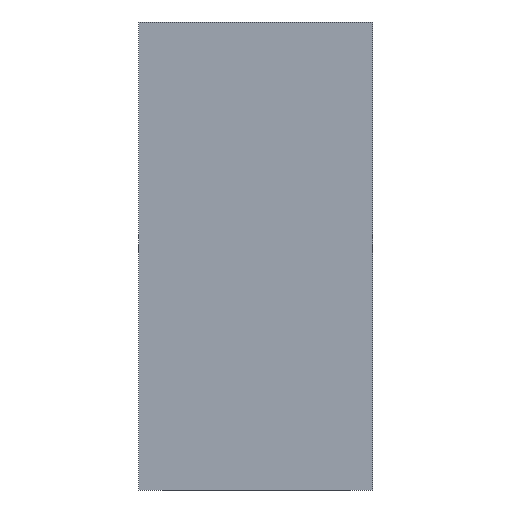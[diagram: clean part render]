
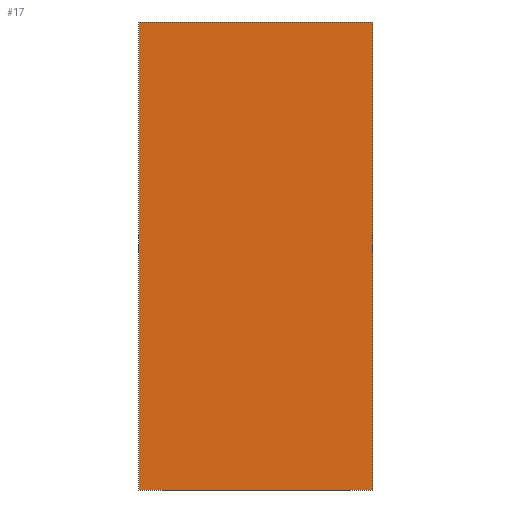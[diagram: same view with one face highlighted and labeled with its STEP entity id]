
A CAD part, front view. The second image highlights one B-rep face of the part: STEP entity #17.
In plain terms, the highlighted planar face has unit normal (0, -1, 0).
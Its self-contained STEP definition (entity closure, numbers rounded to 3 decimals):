
#17 = ADVANCED_FACE('',(#18),#32,.F.);
#18 = FACE_BOUND('',#19,.F.);
#19 = EDGE_LOOP('',(#20,#55,#83,#111));
#20 = ORIENTED_EDGE('',*,*,#21,.T.);
#21 = EDGE_CURVE('',#22,#24,#26,.T.);
#22 = VERTEX_POINT('',#23);
#23 = CARTESIAN_POINT('',(-50.,-50.,0.));
#24 = VERTEX_POINT('',#25);
#25 = CARTESIAN_POINT('',(-50.,-50.,200.));
#26 = SURFACE_CURVE('',#27,(#31,#43),.PCURVE_S1.);
#27 = LINE('',#28,#29);
#28 = CARTESIAN_POINT('',(-50.,-50.,0.));
#29 = VECTOR('',#30,1.);
#30 = DIRECTION('',(0.,0.,1.));
#31 = PCURVE('',#32,#37);
#32 = PLANE('',#33);
#33 = AXIS2_PLACEMENT_3D('',#34,#35,#36);
#34 = CARTESIAN_POINT('',(-50.,-50.,0.));
#35 = DIRECTION('',(0.,1.,0.));
#36 = DIRECTION('',(1.,0.,0.));
#37 = DEFINITIONAL_REPRESENTATION('',(#38),#42);
#38 = LINE('',#39,#40);
#39 = CARTESIAN_POINT('',(0.,0.));
#40 = VECTOR('',#41,1.);
#41 = DIRECTION('',(0.,-1.));
#42 = ( GEOMETRIC_REPRESENTATION_CONTEXT(2) 
PARAMETRIC_REPRESENTATION_CONTEXT() REPRESENTATION_CONTEXT('2D SPACE',''
  ) );
#43 = PCURVE('',#44,#49);
#44 = PLANE('',#45);
#45 = AXIS2_PLACEMENT_3D('',#46,#47,#48);
#46 = CARTESIAN_POINT('',(-50.,50.,0.));
#47 = DIRECTION('',(1.,0.,-0.));
#48 = DIRECTION('',(0.,-1.,0.));
#49 = DEFINITIONAL_REPRESENTATION('',(#50),#54);
#50 = LINE('',#51,#52);
#51 = CARTESIAN_POINT('',(100.,0.));
#52 = VECTOR('',#53,1.);
#53 = DIRECTION('',(0.,-1.));
#54 = ( GEOMETRIC_REPRESENTATION_CONTEXT(2) 
PARAMETRIC_REPRESENTATION_CONTEXT() REPRESENTATION_CONTEXT('2D SPACE',''
  ) );
#55 = ORIENTED_EDGE('',*,*,#56,.T.);
#56 = EDGE_CURVE('',#24,#57,#59,.T.);
#57 = VERTEX_POINT('',#58);
#58 = CARTESIAN_POINT('',(50.,-50.,200.));
#59 = SURFACE_CURVE('',#60,(#64,#71),.PCURVE_S1.);
#60 = LINE('',#61,#62);
#61 = CARTESIAN_POINT('',(-50.,-50.,200.));
#62 = VECTOR('',#63,1.);
#63 = DIRECTION('',(1.,0.,0.));
#64 = PCURVE('',#32,#65);
#65 = DEFINITIONAL_REPRESENTATION('',(#66),#70);
#66 = LINE('',#67,#68);
#67 = CARTESIAN_POINT('',(0.,-200.));
#68 = VECTOR('',#69,1.);
#69 = DIRECTION('',(1.,0.));
#70 = ( GEOMETRIC_REPRESENTATION_CONTEXT(2) 
PARAMETRIC_REPRESENTATION_CONTEXT() REPRESENTATION_CONTEXT('2D SPACE',''
  ) );
#71 = PCURVE('',#72,#77);
#72 = PLANE('',#73);
#73 = AXIS2_PLACEMENT_3D('',#74,#75,#76);
#74 = CARTESIAN_POINT('',(0.,0.,200.));
#75 = DIRECTION('',(0.,0.,1.));
#76 = DIRECTION('',(1.,0.,-0.));
#77 = DEFINITIONAL_REPRESENTATION('',(#78),#82);
#78 = LINE('',#79,#80);
#79 = CARTESIAN_POINT('',(-50.,-50.));
#80 = VECTOR('',#81,1.);
#81 = DIRECTION('',(1.,0.));
#82 = ( GEOMETRIC_REPRESENTATION_CONTEXT(2) 
PARAMETRIC_REPRESENTATION_CONTEXT() REPRESENTATION_CONTEXT('2D SPACE',''
  ) );
#83 = ORIENTED_EDGE('',*,*,#84,.F.);
#84 = EDGE_CURVE('',#85,#57,#87,.T.);
#85 = VERTEX_POINT('',#86);
#86 = CARTESIAN_POINT('',(50.,-50.,0.));
#87 = SURFACE_CURVE('',#88,(#92,#99),.PCURVE_S1.);
#88 = LINE('',#89,#90);
#89 = CARTESIAN_POINT('',(50.,-50.,0.));
#90 = VECTOR('',#91,1.);
#91 = DIRECTION('',(0.,0.,1.));
#92 = PCURVE('',#32,#93);
#93 = DEFINITIONAL_REPRESENTATION('',(#94),#98);
#94 = LINE('',#95,#96);
#95 = CARTESIAN_POINT('',(100.,0.));
#96 = VECTOR('',#97,1.);
#97 = DIRECTION('',(0.,-1.));
#98 = ( GEOMETRIC_REPRESENTATION_CONTEXT(2) 
PARAMETRIC_REPRESENTATION_CONTEXT() REPRESENTATION_CONTEXT('2D SPACE',''
  ) );
#99 = PCURVE('',#100,#105);
#100 = PLANE('',#101);
#101 = AXIS2_PLACEMENT_3D('',#102,#103,#104);
#102 = CARTESIAN_POINT('',(50.,-50.,0.));
#103 = DIRECTION('',(-1.,0.,0.));
#104 = DIRECTION('',(0.,1.,0.));
#105 = DEFINITIONAL_REPRESENTATION('',(#106),#110);
#106 = LINE('',#107,#108);
#107 = CARTESIAN_POINT('',(0.,0.));
#108 = VECTOR('',#109,1.);
#109 = DIRECTION('',(0.,-1.));
#110 = ( GEOMETRIC_REPRESENTATION_CONTEXT(2) 
PARAMETRIC_REPRESENTATION_CONTEXT() REPRESENTATION_CONTEXT('2D SPACE',''
  ) );
#111 = ORIENTED_EDGE('',*,*,#112,.F.);
#112 = EDGE_CURVE('',#22,#85,#113,.T.);
#113 = SURFACE_CURVE('',#114,(#118,#125),.PCURVE_S1.);
#114 = LINE('',#115,#116);
#115 = CARTESIAN_POINT('',(-50.,-50.,0.));
#116 = VECTOR('',#117,1.);
#117 = DIRECTION('',(1.,0.,0.));
#118 = PCURVE('',#32,#119);
#119 = DEFINITIONAL_REPRESENTATION('',(#120),#124);
#120 = LINE('',#121,#122);
#121 = CARTESIAN_POINT('',(0.,0.));
#122 = VECTOR('',#123,1.);
#123 = DIRECTION('',(1.,0.));
#124 = ( GEOMETRIC_REPRESENTATION_CONTEXT(2) 
PARAMETRIC_REPRESENTATION_CONTEXT() REPRESENTATION_CONTEXT('2D SPACE',''
  ) );
#125 = PCURVE('',#126,#131);
#126 = PLANE('',#127);
#127 = AXIS2_PLACEMENT_3D('',#128,#129,#130);
#128 = CARTESIAN_POINT('',(0.,0.,0.));
#129 = DIRECTION('',(0.,0.,1.));
#130 = DIRECTION('',(1.,0.,-0.));
#131 = DEFINITIONAL_REPRESENTATION('',(#132),#136);
#132 = LINE('',#133,#134);
#133 = CARTESIAN_POINT('',(-50.,-50.));
#134 = VECTOR('',#135,1.);
#135 = DIRECTION('',(1.,0.));
#136 = ( GEOMETRIC_REPRESENTATION_CONTEXT(2) 
PARAMETRIC_REPRESENTATION_CONTEXT() REPRESENTATION_CONTEXT('2D SPACE',''
  ) );
